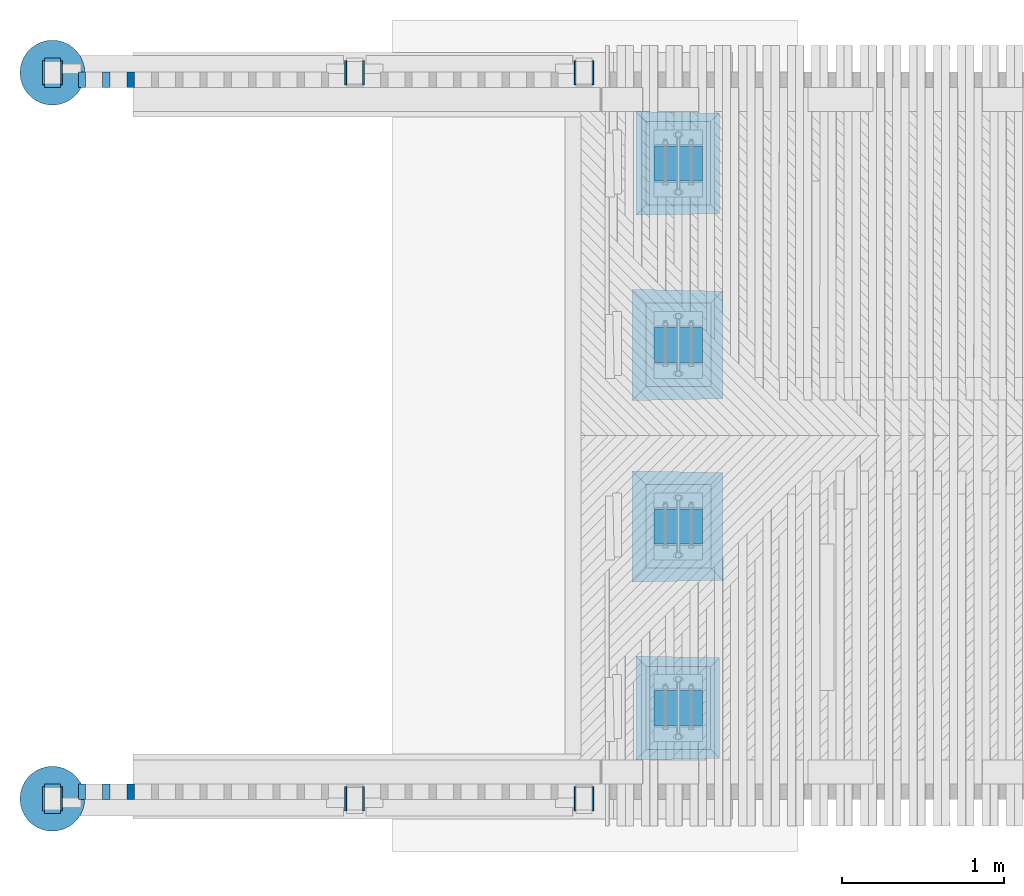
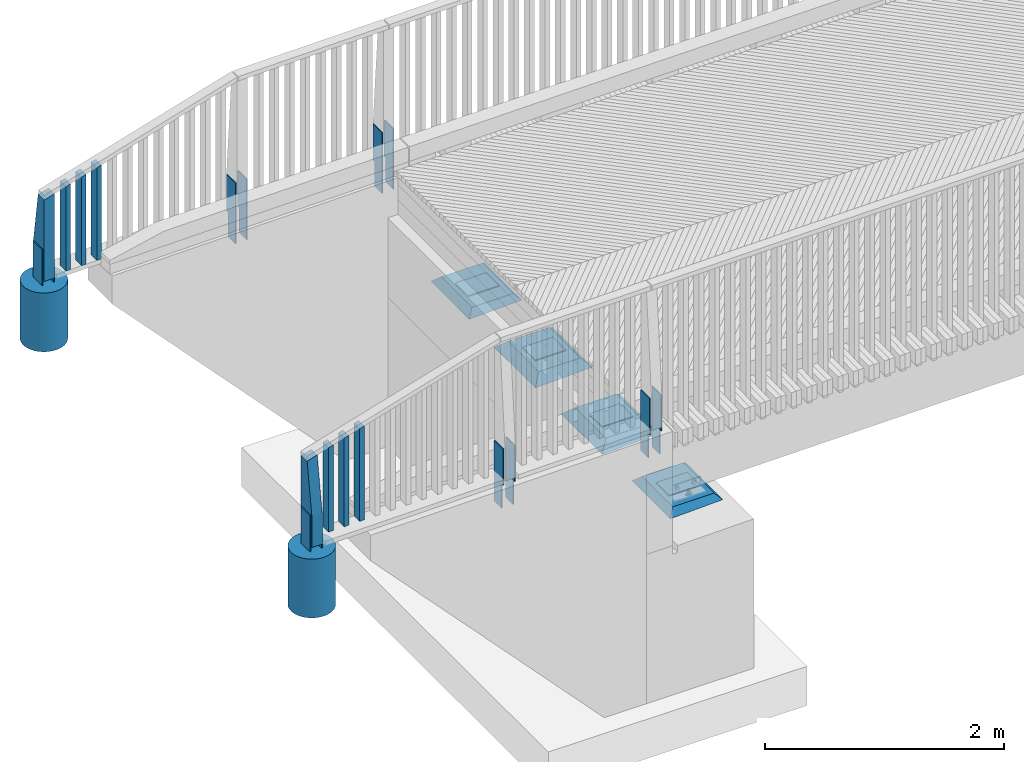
# One storey, part 9 of 47: 30 columns.
"""IFC2X3 building model written with IfcOpenShell, lengths in millimetres."""

from ifc_helpers import new_model, si_unit, frame, origin_with_axes, place, context, subcontext, project, spatial, faceted_brep, material, type_object, element, save


model = new_model("IFC2X3")

# Units and contexts
model_context = context("Model", 3, precision=1e-05, world=origin_with_axes())
body_context = subcontext(model_context, "Body", "Model", "MODEL_VIEW")
ifc_project = project(units=[si_unit("LENGTHUNIT", "METRE", prefix="MILLI"), si_unit("AREAUNIT", "SQUARE_METRE"), si_unit("VOLUMEUNIT", "CUBIC_METRE"), si_unit("MASSUNIT", "GRAM", prefix="KILO"), si_unit("TIMEUNIT", "SECOND"), si_unit("PLANEANGLEUNIT", "RADIAN"), si_unit("SOLIDANGLEUNIT", "STERADIAN"), si_unit("THERMODYNAMICTEMPERATUREUNIT", "DEGREE_CELSIUS"), si_unit("LUMINOUSINTENSITYUNIT", "LUMEN")], contexts=[model_context])

# Site, building, storey
site_placement = place(None, origin_with_axes())
site = spatial("IfcSite", under=ifc_project, at=site_placement, Name="Undefined", CompositionType="ELEMENT")
building_placement = place(site_placement, origin_with_axes())
building = spatial("IfcBuilding", under=site, at=building_placement, Name="Undefined", CompositionType="ELEMENT")
storey_placement = place(building_placement, origin_with_axes())
storey = spatial("IfcBuildingStorey", under=building, at=storey_placement, Name="Undefined", CompositionType="ELEMENT", Elevation=0.0)

# Columns
ifc_material_1 = material(Name="STEEL/AISI316")
column_type_1 = type_object("IfcColumnType", Name="PL150*10", PredefinedType="NOTDEFINED")
for number, where, z_axis, x_axis in (
    (1, (-3807.03593497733, 64605.0000000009, 2796.3272174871), (0.0, -1.0, 0.0), (0.0, 0.0, 1.0)),
    (2, (-527.030376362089, 64605.0000000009, 2842.46233696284), (0.0, -1.0, 0.0), (0.0, 0.0, 1.0)),
    (3, (-1942.03083585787, 64605.0000000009, 2822.58976226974), (0.0, -1.0, 0.0), (0.0, 0.0, 1.0)),
    (4, (-3917.03593497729, 64605.0000000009, 2796.327217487), (0.0, -1.0, 0.0), (0.0, 0.0, 1.0)),
    (5, (-637.030376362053, 64605.0000000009, 2842.46233696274), (0.0, -1.0, 0.0), (0.0, 0.0, 1.0)),
    (6, (-2052.03083585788, 64605.0000000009, 2822.58976226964), (0.0, -1.0, 0.0), (0.0, 0.0, 1.0)),
):
    element("IfcColumn", number, at=place(storey_placement, frame(where, z_axis=z_axis, x_axis=x_axis)), inside=storey, type_object=column_type_1, material=ifc_material_1, Name="KAIDEPYLVÄS", ObjectType="PL150*10", context=body_context, shape_type="Brep", body=[
        faceted_brep([(0.0, -5.0, -50.0), (0.0, 5.0, -50.0), (249.999999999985, 5.0, -50.0), (249.999999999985, -5.0, -50.0), (249.999999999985, -5.0, -75.0), (249.999999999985, 5.0, -75.0), (0.0, 5.0, 75.0), (0.0, -5.0, 75.0), (620.000000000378, -5.0, 75.0), (620.000000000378, 5.0, 75.0), (620.000000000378, -5.0, -75.0), (620.000000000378, 5.0, -75.0)], [[[0, 1, 2, 3]], [[4, 3, 2, 5]], [[6, 7, 8, 9]], [[8, 10, 11, 9]], [[11, 10, 4, 5]], [[1, 6, 9, 11, 5, 2]], [[7, 6, 1, 0]], [[10, 8, 7, 0, 3, 4]]]),
    ])
for number, where, z_axis, x_axis in (
    (7, (-3807.03593497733, 60125.0, 2796.3272174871), (0.0, 1.0, 0.0), (0.0, 0.0, 1.0)),
    (8, (-3917.03593497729, 60125.0, 2796.327217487), (0.0, 1.0, 0.0), (0.0, 0.0, 1.0)),
    (9, (-527.030376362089, 60125.0, 2842.46233696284), (0.0, 1.0, 0.0), (0.0, 0.0, 1.0)),
    (10, (-637.030376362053, 60125.0, 2842.46233696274), (0.0, 1.0, 0.0), (0.0, 0.0, 1.0)),
    (11, (-1942.03083585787, 60125.0, 2822.58976226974), (0.0, 1.0, 0.0), (0.0, 0.0, 1.0)),
    (12, (-2052.03083585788, 60125.0, 2822.58976226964), (0.0, 1.0, 0.0), (0.0, 0.0, 1.0)),
):
    element("IfcColumn", number, at=place(storey_placement, frame(where, z_axis=z_axis, x_axis=x_axis)), inside=storey, type_object=column_type_1, material=ifc_material_1, Name="KAIDEPYLVÄS", ObjectType="PL150*10", context=body_context, shape_type="Brep", body=[
        faceted_brep([(0.0, -5.0, -50.0), (0.0, 5.0, -50.0), (249.999999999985, 5.0, -50.0), (249.999999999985, -5.0, -50.0), (249.999999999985, -5.0, -75.0), (249.999999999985, 5.0, -75.0), (620.000000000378, -5.0, 75.0), (620.000000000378, -5.0, -75.0), (620.000000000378, 5.0, -75.0), (620.000000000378, 5.0, 75.0), (0.0, 5.0, 75.0), (0.0, -5.0, 75.0)], [[[0, 1, 2, 3]], [[4, 3, 2, 5]], [[6, 7, 8, 9]], [[10, 11, 6, 9]], [[11, 10, 1, 0]], [[7, 6, 11, 0, 3, 4]], [[8, 7, 4, 5]], [[1, 10, 9, 8, 5, 2]]]),
    ])
ifc_material_2 = material(Name="TIMBER/Timber_Undefined")
column_type_2 = type_object("IfcColumnType", Name="180*100", PredefinedType="NOTDEFINED")
column_1_placement = place(storey_placement, frame((-3862.02999924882, 64604.9879081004, 3167.79000000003), z_axis=(0.0, -1.0, 0.0), x_axis=(0.0, 0.0, 1.0)))
element("IfcColumn", 13, at=column_1_placement, inside=storey, type_object=column_type_2, material=ifc_material_2, Name="KAIDEPYLVÄS", ObjectType="180*100", context=body_context, shape_type="Brep", body=[
    faceted_brep([(-71.4700000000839, 50.0, 90.0), (-71.4700000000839, -50.0, 90.0), (790.270209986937, -50.0, 90.0), (760.600236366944, 50.0, 90.0), (-71.4700000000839, -50.0, -90.0), (-71.4700000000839, 50.0, -90.0), (241.710000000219, -50.0, -90.0), (790.270209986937, -50.0, -5.62659196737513), (760.600236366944, 50.0, -10.1900961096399), (241.710000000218, 50.0, -90.0)], [[[0, 1, 2, 3]], [[4, 1, 0, 5]], [[2, 1, 4, 6, 7]], [[3, 2, 7, 8]], [[5, 0, 3, 8, 9]], [[4, 5, 9, 6]], [[6, 9, 8, 7]]]),
])
column_2_placement = place(storey_placement, frame((-3862.02999924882, 60125.0120919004, 3167.79000000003), z_axis=(0.0, 1.0, 0.0), x_axis=(0.0, 0.0, 1.0)))
element("IfcColumn", 14, at=column_2_placement, inside=storey, type_object=column_type_2, material=ifc_material_2, Name="KAIDEPYLVÄS", ObjectType="180*100", context=body_context, shape_type="Brep", body=[
    faceted_brep([(-71.4700000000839, -50.0, -90.0), (-71.4700000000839, -50.0, 90.0), (-71.4700000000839, 50.0, 90.0), (-71.4700000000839, 50.0, -90.0), (760.600236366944, -50.0, 90.0), (790.270209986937, 50.0, 90.0), (790.270209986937, 50.0, -5.62659196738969), (241.710000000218, 50.0, -90.0), (241.710000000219, -50.0, -90.0), (760.600236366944, -50.0, -10.1900961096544)], [[[0, 1, 2, 3]], [[2, 1, 4, 5]], [[3, 2, 5, 6, 7]], [[0, 3, 7, 8]], [[4, 1, 0, 8, 9]], [[5, 4, 9, 6]], [[6, 9, 8, 7]]]),
])
column_type_3 = type_object("IfcColumnType", Name="95*45", PredefinedType="NOTDEFINED")
column_3_placement = place(storey_placement, frame((-3379.52918364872, 64562.4979081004, 3121.94), z_axis=(0.0, 1.0, 0.0), x_axis=(0.0, 0.0, 1.0)))
element("IfcColumn", 15, at=column_3_placement, inside=storey, type_object=column_type_3, material=ifc_material_2, Name="BEAM", ObjectType="95*45", context=body_context, shape_type="Brep", body=[
    faceted_brep([(11.9582159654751, 22.5, -47.5), (11.9582159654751, 22.5, 47.5), (971.893186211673, 22.5, 47.5), (971.893186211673, 22.5, -47.5), (11.3263002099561, -22.5, 47.5), (958.465572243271, -22.5, 47.5), (11.3263002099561, -22.5, -47.5), (958.465572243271, -22.5, -47.5)], [[[0, 1, 2, 3]], [[1, 4, 5, 2]], [[4, 6, 7, 5]], [[6, 0, 3, 7]], [[5, 7, 3, 2]], [[6, 4, 1, 0]]]),
])
column_4_placement = place(storey_placement, frame((-3529.52918364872, 64562.4979081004, 3121.94), z_axis=(0.0, 1.0, 0.0), x_axis=(0.0, 0.0, 1.0)))
element("IfcColumn", 16, at=column_4_placement, inside=storey, type_object=column_type_3, material=ifc_material_2, Name="BEAM", ObjectType="95*45", context=body_context, shape_type="Brep", body=[
    faceted_brep([(9.85183011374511, 22.5, -47.5), (9.85183011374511, 22.5, 47.5), (927.134472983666, 22.5, 47.5), (927.134472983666, 22.5, -47.5), (9.21991435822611, -22.5, 47.5), (913.706859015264, -22.5, 47.5), (9.21991435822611, -22.5, -47.5), (913.706859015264, -22.5, -47.5)], [[[0, 1, 2, 3]], [[1, 4, 5, 2]], [[4, 6, 7, 5]], [[6, 0, 3, 7]], [[5, 7, 3, 2]], [[6, 4, 1, 0]]]),
])
column_5_placement = place(storey_placement, frame((-3679.52918364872, 64562.4979081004, 3121.94), z_axis=(0.0, 1.0, 0.0), x_axis=(0.0, 0.0, 1.0)))
element("IfcColumn", 17, at=column_5_placement, inside=storey, type_object=column_type_3, material=ifc_material_2, Name="BEAM", ObjectType="95*45", context=body_context, shape_type="Brep", body=[
    faceted_brep([(7.7454442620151, 22.5, -47.5), (7.7454442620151, 22.5, 47.5), (882.37575975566, 22.5, 47.5), (882.37575975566, 22.5, -47.5), (7.1135285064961, -22.5, 47.5), (868.948145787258, -22.5, 47.5), (7.1135285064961, -22.5, -47.5), (868.948145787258, -22.5, -47.5)], [[[0, 1, 2, 3]], [[1, 4, 5, 2]], [[4, 6, 7, 5]], [[6, 0, 3, 7]], [[5, 7, 3, 2]], [[6, 4, 1, 0]]]),
])
column_6_placement = place(storey_placement, frame((-3379.52918364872, 60167.5020919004, 3121.94), z_axis=(0.0, -1.0, 0.0), x_axis=(0.0, 0.0, 1.0)))
element("IfcColumn", 18, at=column_6_placement, inside=storey, type_object=column_type_3, material=ifc_material_2, Name="BEAM", ObjectType="95*45", context=body_context, shape_type="Brep", body=[
    faceted_brep([(11.3263002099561, 22.5, -47.5), (11.3263002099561, 22.5, 47.5), (958.465572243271, 22.5, 47.5), (958.465572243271, 22.5, -47.5), (11.9582159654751, -22.5, 47.5), (971.893186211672, -22.5, 47.5), (11.9582159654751, -22.5, -47.5), (971.893186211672, -22.5, -47.5)], [[[0, 1, 2, 3]], [[1, 4, 5, 2]], [[4, 6, 7, 5]], [[6, 0, 3, 7]], [[5, 7, 3, 2]], [[6, 4, 1, 0]]]),
])
column_7_placement = place(storey_placement, frame((-3529.52918364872, 60167.5020919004, 3121.94), z_axis=(0.0, -1.0, 0.0), x_axis=(0.0, 0.0, 1.0)))
element("IfcColumn", 19, at=column_7_placement, inside=storey, type_object=column_type_3, material=ifc_material_2, Name="BEAM", ObjectType="95*45", context=body_context, shape_type="Brep", body=[
    faceted_brep([(9.21991435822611, 22.5, -47.5), (9.21991435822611, 22.5, 47.5), (913.706859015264, 22.5, 47.5), (913.706859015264, 22.5, -47.5), (9.85183011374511, -22.5, 47.5), (927.134472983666, -22.5, 47.5), (9.85183011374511, -22.5, -47.5), (927.134472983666, -22.5, -47.5)], [[[0, 1, 2, 3]], [[1, 4, 5, 2]], [[4, 6, 7, 5]], [[6, 0, 3, 7]], [[5, 7, 3, 2]], [[6, 4, 1, 0]]]),
])
column_8_placement = place(storey_placement, frame((-3679.52918364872, 60167.5020919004, 3121.94), z_axis=(0.0, -1.0, 0.0), x_axis=(0.0, 0.0, 1.0)))
element("IfcColumn", 20, at=column_8_placement, inside=storey, type_object=column_type_3, material=ifc_material_2, Name="BEAM", ObjectType="95*45", context=body_context, shape_type="Brep", body=[
    faceted_brep([(7.1135285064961, 22.5, -47.5), (7.1135285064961, 22.5, 47.5), (868.948145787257, 22.5, 47.5), (868.948145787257, 22.5, -47.5), (7.7454442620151, -22.5, 47.5), (882.375759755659, -22.5, 47.5), (7.7454442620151, -22.5, -47.5), (882.375759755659, -22.5, -47.5)], [[[0, 1, 2, 3]], [[1, 4, 5, 2]], [[4, 6, 7, 5]], [[6, 0, 3, 7]], [[5, 7, 3, 2]], [[6, 4, 1, 0]]]),
])
ifc_material_3 = material(Name="CONCRETE/Concrete_Undefined")
column_type_4 = type_object("IfcColumnType", Name="D400", PredefinedType="NOTDEFINED")
column_9_placement = place(storey_placement, frame((-3861.99999953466, 64604.9858270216, 2446.32999999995), z_axis=(-1.0, 0.0, 0.0), x_axis=(0.0, 0.0, 1.0)))
element("IfcColumn", 21, at=column_9_placement, inside=storey, type_object=column_type_4, material=ifc_material_3, Name="COLUMN", ObjectType="D400", context=body_context, shape_type="Brep", body=[
    faceted_brep([(0.0, -200.0, 0.0), (0.0, -196.961550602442, -34.7296355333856), (600.0, -196.961550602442, -34.7296355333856), (600.0, -200.0, 0.0), (0.0, -187.93852415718, -68.4040286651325), (600.0, -187.93852415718, -68.4040286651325), (0.0, -173.205080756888, -100.0), (600.0, -173.205080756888, -100.0), (0.0, -153.208888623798, -128.55752193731), (600.0, -153.208888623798, -128.55752193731), (0.0, -128.557521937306, -153.208888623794), (600.0, -128.557521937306, -153.208888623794), (0.0, -100.0, -173.205080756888), (600.0, -100.0, -173.205080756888), (0.0, -68.4040286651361, -187.93852415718), (600.0, -68.4040286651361, -187.93852415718), (0.0, -34.7296355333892, -196.961550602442), (600.0, -34.7296355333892, -196.961550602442), (0.0, 0.0, -200.0), (600.0, 0.0, -200.0), (0.0, 34.7296355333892, -196.961550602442), (600.0, 34.7296355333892, -196.961550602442), (0.0, 68.4040286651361, -187.93852415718), (600.0, 68.4040286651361, -187.93852415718), (0.0, 100.0, -173.205080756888), (600.0, 100.0, -173.205080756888), (0.0, 128.557521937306, -153.208888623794), (600.0, 128.557521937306, -153.208888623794), (0.0, 153.208888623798, -128.55752193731), (600.0, 153.208888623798, -128.55752193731), (0.0, 173.205080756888, -100.0), (600.0, 173.205080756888, -100.0), (0.0, 187.93852415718, -68.4040286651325), (600.0, 187.93852415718, -68.4040286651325), (0.0, 196.961550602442, -34.7296355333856), (600.0, 196.961550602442, -34.7296355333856), (0.0, 200.0, 0.0), (600.0, 200.0, 0.0), (0.0, 196.961550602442, 34.7296355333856), (600.0, 196.961550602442, 34.7296355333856), (0.0, 187.93852415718, 68.4040286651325), (600.0, 187.93852415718, 68.4040286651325), (0.0, 173.205080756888, 100.0), (600.0, 173.205080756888, 100.0), (0.0, 153.208888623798, 128.55752193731), (600.0, 153.208888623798, 128.55752193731), (0.0, 128.557521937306, 153.208888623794), (600.0, 128.557521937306, 153.208888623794), (0.0, 100.0, 173.205080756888), (600.0, 100.0, 173.205080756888), (0.0, 68.4040286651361, 187.93852415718), (600.0, 68.4040286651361, 187.93852415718), (0.0, 34.7296355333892, 196.961550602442), (600.0, 34.7296355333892, 196.961550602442), (0.0, 0.0, 200.0), (600.0, 0.0, 200.0), (0.0, -34.7296355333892, 196.961550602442), (600.0, -34.7296355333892, 196.961550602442), (0.0, -68.4040286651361, 187.93852415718), (600.0, -68.4040286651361, 187.93852415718), (0.0, -100.0, 173.205080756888), (600.0, -100.0, 173.205080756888), (0.0, -128.557521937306, 153.208888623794), (600.0, -128.557521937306, 153.208888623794), (0.0, -153.208888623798, 128.55752193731), (600.0, -153.208888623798, 128.55752193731), (0.0, -173.205080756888, 100.0), (600.0, -173.205080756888, 100.0), (0.0, -187.93852415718, 68.4040286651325), (600.0, -187.93852415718, 68.4040286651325), (0.0, -196.961550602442, 34.7296355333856), (600.0, -196.961550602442, 34.7296355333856)], [[[0, 1, 2, 3]], [[1, 4, 5, 2]], [[4, 6, 7, 5]], [[6, 8, 9, 7]], [[8, 10, 11, 9]], [[10, 12, 13, 11]], [[12, 14, 15, 13]], [[14, 16, 17, 15]], [[16, 18, 19, 17]], [[18, 20, 21, 19]], [[20, 22, 23, 21]], [[22, 24, 25, 23]], [[24, 26, 27, 25]], [[26, 28, 29, 27]], [[28, 30, 31, 29]], [[30, 32, 33, 31]], [[32, 34, 35, 33]], [[34, 36, 37, 35]], [[36, 38, 39, 37]], [[38, 40, 41, 39]], [[40, 42, 43, 41]], [[42, 44, 45, 43]], [[44, 46, 47, 45]], [[46, 48, 49, 47]], [[48, 50, 51, 49]], [[50, 52, 53, 51]], [[52, 54, 55, 53]], [[54, 56, 57, 55]], [[56, 58, 59, 57]], [[58, 60, 61, 59]], [[60, 62, 63, 61]], [[62, 64, 65, 63]], [[64, 66, 67, 65]], [[66, 68, 69, 67]], [[68, 70, 71, 69]], [[70, 0, 3, 71]], [[5, 7, 9, 11, 13, 15, 17, 19, 21, 23, 25, 27, 29, 31, 33, 35, 37, 39, 41, 43, 45, 47, 49, 51, 53, 55, 57, 59, 61, 63, 65, 67, 69, 71, 3, 2]], [[70, 68, 66, 64, 62, 60, 58, 56, 54, 52, 50, 48, 46, 44, 42, 40, 38, 36, 34, 32, 30, 28, 26, 24, 22, 20, 18, 16, 14, 12, 10, 8, 6, 4, 1, 0]]]),
])
column_10_placement = place(storey_placement, frame((-3861.99999953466, 60125.0141729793, 2446.32999999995), z_axis=(-1.0, 0.0, 0.0), x_axis=(0.0, 0.0, 1.0)))
element("IfcColumn", 22, at=column_10_placement, inside=storey, type_object=column_type_4, material=ifc_material_3, Name="COLUMN", ObjectType="D400", context=body_context, shape_type="Brep", body=[
    faceted_brep([(0.0, -200.0, 0.0), (0.0, -196.961550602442, -34.7296355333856), (600.0, -196.961550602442, -34.7296355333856), (600.0, -200.0, 0.0), (0.0, -187.93852415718, -68.4040286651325), (600.0, -187.93852415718, -68.4040286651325), (0.0, -173.205080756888, -100.0), (600.0, -173.205080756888, -100.0), (0.0, -153.208888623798, -128.55752193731), (600.0, -153.208888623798, -128.55752193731), (0.0, -128.557521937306, -153.208888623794), (600.0, -128.557521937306, -153.208888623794), (0.0, -100.0, -173.205080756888), (600.0, -100.0, -173.205080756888), (0.0, -68.4040286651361, -187.93852415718), (600.0, -68.4040286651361, -187.93852415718), (0.0, -34.7296355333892, -196.961550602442), (600.0, -34.7296355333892, -196.961550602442), (0.0, 0.0, -200.0), (600.0, 0.0, -200.0), (0.0, 34.7296355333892, -196.961550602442), (600.0, 34.7296355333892, -196.961550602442), (0.0, 68.4040286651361, -187.93852415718), (600.0, 68.4040286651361, -187.93852415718), (0.0, 100.0, -173.205080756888), (600.0, 100.0, -173.205080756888), (0.0, 128.557521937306, -153.208888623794), (600.0, 128.557521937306, -153.208888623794), (0.0, 153.208888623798, -128.55752193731), (600.0, 153.208888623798, -128.55752193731), (0.0, 173.205080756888, -100.0), (600.0, 173.205080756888, -100.0), (0.0, 187.93852415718, -68.4040286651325), (600.0, 187.93852415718, -68.4040286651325), (0.0, 196.961550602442, -34.7296355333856), (600.0, 196.961550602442, -34.7296355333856), (0.0, 200.0, 0.0), (600.0, 200.0, 0.0), (0.0, 196.961550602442, 34.7296355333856), (600.0, 196.961550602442, 34.7296355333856), (0.0, 187.93852415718, 68.4040286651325), (600.0, 187.93852415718, 68.4040286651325), (0.0, 173.205080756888, 100.0), (600.0, 173.205080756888, 100.0), (0.0, 153.208888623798, 128.55752193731), (600.0, 153.208888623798, 128.55752193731), (0.0, 128.557521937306, 153.208888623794), (600.0, 128.557521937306, 153.208888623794), (0.0, 100.0, 173.205080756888), (600.0, 100.0, 173.205080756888), (0.0, 68.4040286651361, 187.93852415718), (600.0, 68.4040286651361, 187.93852415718), (0.0, 34.7296355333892, 196.961550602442), (600.0, 34.7296355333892, 196.961550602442), (0.0, 0.0, 200.0), (600.0, 0.0, 200.0), (0.0, -34.7296355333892, 196.961550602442), (600.0, -34.7296355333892, 196.961550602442), (0.0, -68.4040286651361, 187.93852415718), (600.0, -68.4040286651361, 187.93852415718), (0.0, -100.0, 173.205080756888), (600.0, -100.0, 173.205080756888), (0.0, -128.557521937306, 153.208888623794), (600.0, -128.557521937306, 153.208888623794), (0.0, -153.208888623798, 128.55752193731), (600.0, -153.208888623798, 128.55752193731), (0.0, -173.205080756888, 100.0), (600.0, -173.205080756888, 100.0), (0.0, -187.93852415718, 68.4040286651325), (600.0, -187.93852415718, 68.4040286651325), (0.0, -196.961550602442, 34.7296355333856), (600.0, -196.961550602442, 34.7296355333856)], [[[0, 1, 2, 3]], [[1, 4, 5, 2]], [[4, 6, 7, 5]], [[6, 8, 9, 7]], [[8, 10, 11, 9]], [[10, 12, 13, 11]], [[12, 14, 15, 13]], [[14, 16, 17, 15]], [[16, 18, 19, 17]], [[18, 20, 21, 19]], [[20, 22, 23, 21]], [[22, 24, 25, 23]], [[24, 26, 27, 25]], [[26, 28, 29, 27]], [[28, 30, 31, 29]], [[30, 32, 33, 31]], [[32, 34, 35, 33]], [[34, 36, 37, 35]], [[36, 38, 39, 37]], [[38, 40, 41, 39]], [[40, 42, 43, 41]], [[42, 44, 45, 43]], [[44, 46, 47, 45]], [[46, 48, 49, 47]], [[48, 50, 51, 49]], [[50, 52, 53, 51]], [[52, 54, 55, 53]], [[54, 56, 57, 55]], [[56, 58, 59, 57]], [[58, 60, 61, 59]], [[60, 62, 63, 61]], [[62, 64, 65, 63]], [[64, 66, 67, 65]], [[66, 68, 69, 67]], [[68, 70, 71, 69]], [[70, 0, 3, 71]], [[5, 7, 9, 11, 13, 15, 17, 19, 21, 23, 25, 27, 29, 31, 33, 35, 37, 39, 41, 43, 45, 47, 49, 51, 53, 55, 57, 59, 61, 63, 65, 67, 69, 71, 3, 2]], [[70, 68, 66, 64, 62, 60, 58, 56, 54, 52, 50, 48, 46, 44, 42, 40, 38, 36, 34, 32, 30, 28, 26, 24, 22, 20, 18, 16, 14, 12, 10, 8, 6, 4, 1, 0]]]),
])
column_type_5 = type_object("IfcColumnType", Name="570*685", PredefinedType="NOTDEFINED")
for number, where, z_axis, x_axis, name in (
    (23, (0.0, 62925.0000000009, 1922.0), (-1.0, 0.0, 0.0), (0.0, 0.0, 1.0), "COLUMN"),
    (24, (0.0, 61805.0, 1922.0), (-1.0, 0.0, 0.0), (0.0, 0.0, 1.0), "COLUMN"),
):
    element("IfcColumn", number, at=place(storey_placement, frame(where, z_axis=z_axis, x_axis=x_axis)), inside=storey, type_object=column_type_5, material=ifc_material_3, Name=name, ObjectType="570*685", context=body_context, shape_type="Brep", body=[
        faceted_brep([(-9.52281374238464, -342.5, 285.0), (75.3299999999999, -257.647186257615, 200.147186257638), (75.3299999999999, 257.647186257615, 200.147186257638), (-9.52281374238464, 342.5, 285.0), (0.770343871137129, -332.206842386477, -274.706842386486), (-9.52281374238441, -342.5, 229.657872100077), (-10.6522449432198, -342.5, 285.0), (-10.6522449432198, 342.5, 285.0), (-9.52281374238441, 342.5, 229.657872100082), (0.770343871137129, 332.206842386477, -274.706842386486), (75.3299999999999, -257.647186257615, -200.147186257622), (75.3299999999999, 257.647186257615, -200.147186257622)], [[[0, 1, 2, 3]], [[4, 5, 6, 7, 8, 9]], [[10, 4, 9, 11]], [[10, 11, 2, 1]], [[5, 4, 10, 1, 0]], [[6, 5, 0]], [[7, 6, 0, 3]], [[7, 3, 8]], [[11, 9, 8, 3, 2]]]),
    ])
column_type_6 = type_object("IfcColumnType", Name="524*639", PredefinedType="NOTDEFINED")
for number, where, z_axis, x_axis, name in (
    (25, (0.0, 64045.0000000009, 1900.0), (-1.0, 0.0, 0.0), (0.0, 0.0, 1.0), "COLUMN"),
    (26, (0.0, 60685.0, 1900.0), (-1.0, 0.0, 0.0), (0.0, 0.0, 1.0), "COLUMN"),
):
    element("IfcColumn", number, at=place(storey_placement, frame(where, z_axis=z_axis, x_axis=x_axis)), inside=storey, type_object=column_type_6, material=ifc_material_3, Name=name, ObjectType="524*639", context=body_context, shape_type="Brep", body=[
        faceted_brep([(13.1046032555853, -319.5, 262.0), (75.3299999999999, -257.274603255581, 199.774603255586), (75.3299999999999, 257.274603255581, 199.774603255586), (13.1046032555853, 319.5, 262.0), (22.3220922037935, -310.282511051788, -252.782511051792), (13.1046032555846, -319.5, 198.874439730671), (11.816326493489, -319.5, 262.0), (11.816326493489, 319.5, 262.0), (13.1046032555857, 319.5, 198.874439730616), (22.3220922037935, 310.282511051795, -252.782511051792), (75.3299999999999, -257.274603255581, -199.774603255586), (75.3299999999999, 257.274603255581, -199.774603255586)], [[[0, 1, 2, 3]], [[4, 5, 6, 7, 8, 9]], [[10, 4, 9, 11]], [[10, 11, 2, 1]], [[5, 4, 10, 1, 0]], [[6, 5, 0]], [[7, 6, 0, 3]], [[7, 3, 8]], [[11, 9, 8, 3, 2]]]),
    ])
ifc_material_4 = material(Name="MISCELLANEOUS/NEOPREENI")
column_type_7 = type_object("IfcColumnType", Name="PL300*215", PredefinedType="NOTDEFINED")
for number, where, z_axis, x_axis, name in (
    (27, (0.0, 64045.0, 1975.33), (-1.0, 0.0, 0.0), (0.0, 0.0, 1.0), "COLUMN"),
    (28, (0.0, 62925.0, 1997.33), (-1.0, 0.0, 0.0), (0.0, 0.0, 1.0), "COLUMN"),
    (29, (0.0, 61805.0, 1997.33), (-1.0, 0.0, 0.0), (0.0, 0.0, 1.0), "COLUMN"),
    (30, (0.0, 60685.0, 1975.33), (-1.0, 0.0, 0.0), (0.0, 0.0, 1.0), "COLUMN"),
):
    element("IfcColumn", number, at=place(storey_placement, frame(where, z_axis=z_axis, x_axis=x_axis)), inside=storey, type_object=column_type_7, material=ifc_material_4, Name=name, ObjectType="PL300*215", context=body_context, shape_type="Brep", body=[
        faceted_brep([(0.0, 107.5, -150.0), (0.0, 107.5, 150.0), (10.0, 107.5, 150.0), (10.0, 107.5, -150.0), (0.0, -107.5, 150.0), (10.0, -107.5, 150.0), (0.0, -107.5, -150.0), (10.0, -107.5, -150.0)], [[[0, 1, 2, 3]], [[1, 4, 5, 2]], [[4, 6, 7, 5]], [[6, 0, 3, 7]], [[5, 7, 3, 2]], [[6, 4, 1, 0]]]),
    ])

save(model, "model.ifc")
